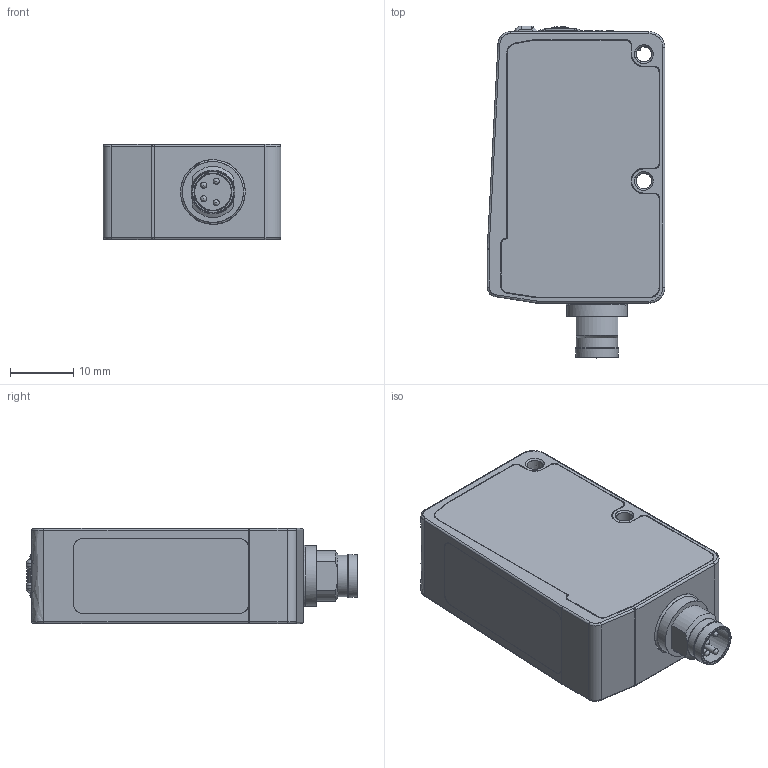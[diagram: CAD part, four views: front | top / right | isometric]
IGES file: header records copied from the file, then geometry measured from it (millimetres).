
Start section: JAMA-IS VERSION  1.0
Global section: file name: D:\CS\IDF\TESTPCB\DSD-0441.igs; native system: NX V12.0; preprocessor: SIEMENS PLM Software NX 12.0; date: 200922.154034; units: millimetre
Bounding box: 28 x 52.35 x 15 mm (x, y, z)
Surface area: 5827.4 mm2 (no closed solid volume)
Topology: 0 solids, 0 shells, 281 faces, 1719 edges, 1660 vertices
Faces by surface type: bspline 281
